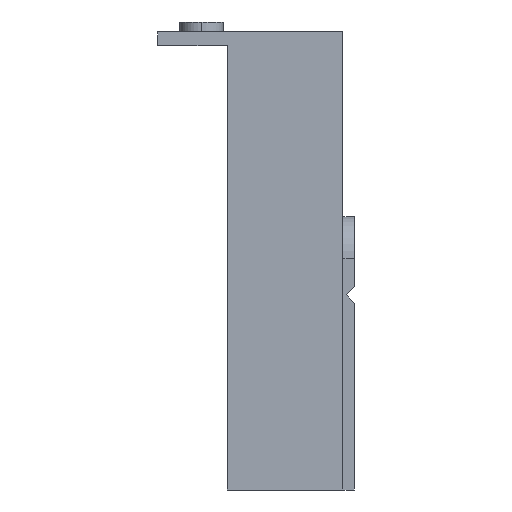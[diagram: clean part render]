
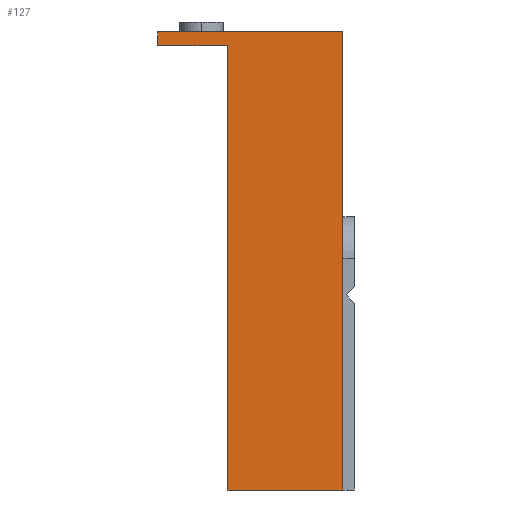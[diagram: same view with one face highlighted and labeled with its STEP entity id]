
A CAD part, left-side view. The second image highlights one B-rep face of the part: STEP entity #127.
In plain terms, the highlighted planar face has unit normal (-1, 0, 0).
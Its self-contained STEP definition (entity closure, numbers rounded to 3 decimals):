
#101 = ORIENTED_EDGE ( 'NONE', *, *, #5314, .F. ) ;
#127 = ADVANCED_FACE ( 'NONE', ( #4994 ), #1485, .T. ) ;
#156 = AXIS2_PLACEMENT_3D ( 'NONE', #6311, #6890, #4117 ) ;
#319 = VECTOR ( 'NONE', #4662, 1000. ) ;
#440 = CARTESIAN_POINT ( 'NONE',  ( -69.8, -100.5, 98.5 ) ) ;
#615 = EDGE_CURVE ( 'NONE', #1148, #8865, #2535, .T. ) ;
#898 = EDGE_CURVE ( 'NONE', #8865, #7109, #5406, .T. ) ;
#943 = DIRECTION ( 'NONE',  ( 0., 0., 1. ) ) ;
#1002 = CARTESIAN_POINT ( 'NONE',  ( -69.8, -140.3, 98.5 ) ) ;
#1148 = VERTEX_POINT ( 'NONE', #8555 ) ;
#1485 = PLANE ( 'NONE',  #156 ) ;
#1570 = VECTOR ( 'NONE', #4161, 1000. ) ;
#2060 = ORIENTED_EDGE ( 'NONE', *, *, #6253, .F. ) ;
#2379 = CARTESIAN_POINT ( 'NONE',  ( -69.8, -100.5, 95.5 ) ) ;
#2535 = LINE ( 'NONE', #4540, #2836 ) ;
#2836 = VECTOR ( 'NONE', #7982, 1000. ) ;
#2977 = CARTESIAN_POINT ( 'NONE',  ( -69.8, -100.5, 95.5 ) ) ;
#3272 = VECTOR ( 'NONE', #6466, 1000. ) ;
#3409 = VERTEX_POINT ( 'NONE', #1002 ) ;
#3499 = CARTESIAN_POINT ( 'NONE',  ( -69.8, -115.5, 95.5 ) ) ;
#4117 = DIRECTION ( 'NONE',  ( 0., 0., 1. ) ) ;
#4161 = DIRECTION ( 'NONE',  ( 0., 1., 0. ) ) ;
#4540 = CARTESIAN_POINT ( 'NONE',  ( -69.8, -115.5, 95.5 ) ) ;
#4632 = VERTEX_POINT ( 'NONE', #7411 ) ;
#4662 = DIRECTION ( 'NONE',  ( 0., 0., -1. ) ) ;
#4797 = LINE ( 'NONE', #8778, #319 ) ;
#4994 = FACE_OUTER_BOUND ( 'NONE', #5543, .T. ) ;
#5314 = EDGE_CURVE ( 'NONE', #3409, #4632, #4797, .T. ) ;
#5406 = LINE ( 'NONE', #7551, #1570 ) ;
#5410 = VECTOR ( 'NONE', #7177, 1000. ) ;
#5543 = EDGE_LOOP ( 'NONE', ( #5868, #7656, #101, #8457, #2060, #6119 ) ) ;
#5868 = ORIENTED_EDGE ( 'NONE', *, *, #615, .F. ) ;
#6119 = ORIENTED_EDGE ( 'NONE', *, *, #898, .F. ) ;
#6179 = LINE ( 'NONE', #7101, #3272 ) ;
#6253 = EDGE_CURVE ( 'NONE', #7109, #8450, #7149, .T. ) ;
#6271 = EDGE_CURVE ( 'NONE', #4632, #1148, #6179, .T. ) ;
#6311 = CARTESIAN_POINT ( 'NONE',  ( -69.8, 0., 0. ) ) ;
#6466 = DIRECTION ( 'NONE',  ( 0., 1., 0. ) ) ;
#6741 = EDGE_CURVE ( 'NONE', #8450, #3409, #8012, .T. ) ;
#6826 = VECTOR ( 'NONE', #943, 1000. ) ;
#6890 = DIRECTION ( 'NONE',  ( -1., 0., 0. ) ) ;
#7101 = CARTESIAN_POINT ( 'NONE',  ( -69.8, -115.5, 0.1 ) ) ;
#7109 = VERTEX_POINT ( 'NONE', #2379 ) ;
#7125 = CARTESIAN_POINT ( 'NONE',  ( -69.8, -140.3, 98.5 ) ) ;
#7149 = LINE ( 'NONE', #2977, #6826 ) ;
#7177 = DIRECTION ( 'NONE',  ( 0., -1., 0. ) ) ;
#7411 = CARTESIAN_POINT ( 'NONE',  ( -69.8, -140.3, 0.1 ) ) ;
#7551 = CARTESIAN_POINT ( 'NONE',  ( -69.8, -100.5, 95.5 ) ) ;
#7656 = ORIENTED_EDGE ( 'NONE', *, *, #6271, .F. ) ;
#7982 = DIRECTION ( 'NONE',  ( 0., 0., 1. ) ) ;
#8012 = LINE ( 'NONE', #7125, #5410 ) ;
#8450 = VERTEX_POINT ( 'NONE', #440 ) ;
#8457 = ORIENTED_EDGE ( 'NONE', *, *, #6741, .F. ) ;
#8555 = CARTESIAN_POINT ( 'NONE',  ( -69.8, -115.5, 0.1 ) ) ;
#8778 = CARTESIAN_POINT ( 'NONE',  ( -69.8, -140.3, 0.1 ) ) ;
#8865 = VERTEX_POINT ( 'NONE', #3499 ) ;
